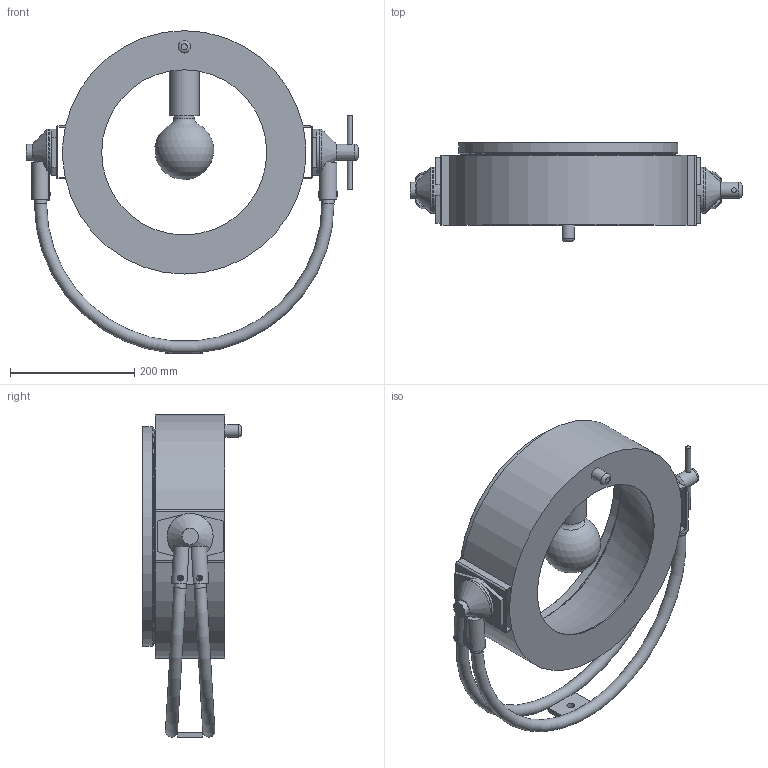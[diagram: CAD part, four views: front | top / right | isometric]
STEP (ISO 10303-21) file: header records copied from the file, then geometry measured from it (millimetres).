
FILE_DESCRIPTION(/* description */ ('Unknown'),/* implementation_level */ '2;1');
FILE_NAME(/* name */ '3D_molyPATT',/* time_stamp */ '2023-08-22T15:17:00+02:00',/* author */ ('Unknown'),/* organization */ ('Unknown'),/* preprocessor_version */ 'ST-DEVELOPER v18.104',/* originating_system */ 'Solid Edge',/* authorisation */ 'Unknown');
FILE_SCHEMA (('AUTOMOTIVE_DESIGN {1 0 10303 214 3 1 1}'));
Length unit declared in the file: millimetre
Products named in the file (3): 3D_molyPATT; 3D_molyPATT_telo; 3D_molyPATT_zaves
Assembly tree (2 placements, depth 2):
  3D_molyPATT
    3D_molyPATT_telo
    3D_molyPATT_zaves
Bounding box: 534.8 x 159.2 x 519.66 mm (x, y, z)
Volume: 6161317.1 mm3; surface area: 771258.3 mm2
Topology: 14 solids, 14 shells, 231 faces, 524 edges, 344 vertices
Faces by surface type: plane 103, cylinder 92, torus 28, cone 7, sphere 1
Full cylindrical faces by diameter (mm): 3 x8, 5 x16, 5.2 x8, 8 x2, 9.5 x8, 12.5 x2, 13 x1, 17.5 x4, 19.2 x4, 19.5 x4, 20 x1, 23 x2, 26 x2, 28 x2, 33.035 x1, 42 x2, 48.5 x1, 55 x1, 74 x2, 266 x1, 350.4 x1, 353.4 x1
Entity records: 7640 total; most frequent: CARTESIAN_POINT 2842, DIRECTION 974, ORIENTED_EDGE 734, EDGE_LOOP 430, FACE_BOUND 430, AXIS2_PLACEMENT_3D 422, EDGE_CURVE 367, VERTEX_POINT 303
